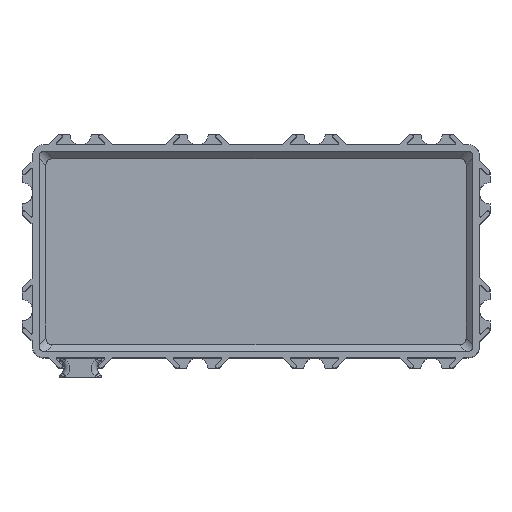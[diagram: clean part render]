
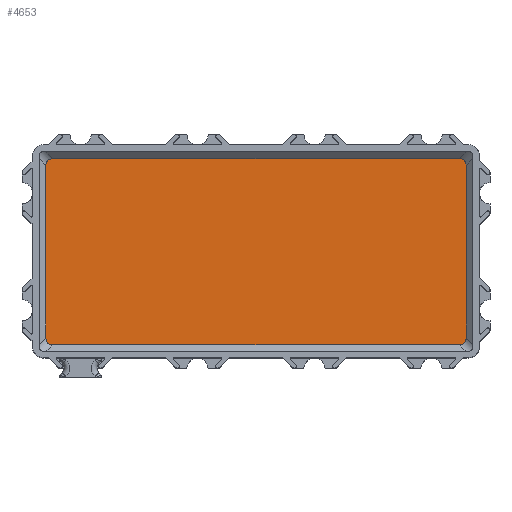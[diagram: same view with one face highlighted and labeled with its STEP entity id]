
A CAD part, top view. The second image highlights one B-rep face of the part: STEP entity #4653.
In plain terms, the highlighted planar face has unit normal (0, 0, 1).
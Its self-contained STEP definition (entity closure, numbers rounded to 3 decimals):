
#376=LINE('',#7682,#788);
#382=LINE('',#7715,#794);
#393=LINE('',#7778,#805);
#395=LINE('',#7781,#807);
#788=VECTOR('',#6307,10.);
#794=VECTOR('',#6327,10.);
#805=VECTOR('',#6364,10.);
#807=VECTOR('',#6368,10.);
#964=PLANE('',#5120);
#1171=FACE_OUTER_BOUND('',#1407,.T.);
#1407=EDGE_LOOP('',(#3906,#3907,#3908,#3909,#3910,#3911,#3912,#3913));
#1506=ELLIPSE('',#5094,3.118,1.8);
#1510=ELLIPSE('',#5102,3.118,1.8);
#1513=ELLIPSE('',#5110,3.118,1.8);
#1515=ELLIPSE('',#5114,3.118,1.8);
#2058=VERTEX_POINT('',#7654);
#2059=VERTEX_POINT('',#7655);
#2064=VERTEX_POINT('',#7681);
#2067=VERTEX_POINT('',#7691);
#2070=VERTEX_POINT('',#7714);
#2074=VERTEX_POINT('',#7741);
#2078=VERTEX_POINT('',#7766);
#2079=VERTEX_POINT('',#7767);
#2668=EDGE_CURVE('',#2058,#2059,#1506,.T.);
#2676=EDGE_CURVE('',#2064,#2058,#376,.T.);
#2681=EDGE_CURVE('',#2067,#2064,#1510,.T.);
#2686=EDGE_CURVE('',#2070,#2067,#382,.T.);
#2693=EDGE_CURVE('',#2074,#2070,#1513,.T.);
#2699=EDGE_CURVE('',#2078,#2079,#1515,.T.);
#2705=EDGE_CURVE('',#2079,#2074,#393,.T.);
#2707=EDGE_CURVE('',#2059,#2078,#395,.T.);
#3906=ORIENTED_EDGE('',*,*,#2668,.T.);
#3907=ORIENTED_EDGE('',*,*,#2707,.T.);
#3908=ORIENTED_EDGE('',*,*,#2699,.T.);
#3909=ORIENTED_EDGE('',*,*,#2705,.T.);
#3910=ORIENTED_EDGE('',*,*,#2693,.T.);
#3911=ORIENTED_EDGE('',*,*,#2686,.T.);
#3912=ORIENTED_EDGE('',*,*,#2681,.T.);
#3913=ORIENTED_EDGE('',*,*,#2676,.T.);
#4653=ADVANCED_FACE('',(#1171),#964,.F.);
#5094=AXIS2_PLACEMENT_3D('',#7656,#6293,#6294);
#5102=AXIS2_PLACEMENT_3D('',#7692,#6317,#6318);
#5110=AXIS2_PLACEMENT_3D('',#7742,#6340,#6341);
#5114=AXIS2_PLACEMENT_3D('',#7768,#6351,#6352);
#5120=AXIS2_PLACEMENT_3D('',#7782,#6369,#6370);
#6293=DIRECTION('center_axis',(0.,0.,1.));
#6294=DIRECTION('ref_axis',(-0.707,0.707,0.));
#6307=DIRECTION('',(-1.,0.,0.));
#6317=DIRECTION('center_axis',(0.,0.,1.));
#6318=DIRECTION('ref_axis',(0.707,0.707,0.));
#6327=DIRECTION('',(0.,1.,0.));
#6340=DIRECTION('center_axis',(0.,0.,1.));
#6341=DIRECTION('ref_axis',(0.707,-0.707,0.));
#6351=DIRECTION('center_axis',(0.,0.,1.));
#6352=DIRECTION('ref_axis',(-0.707,-0.707,0.));
#6364=DIRECTION('',(1.,0.,0.));
#6368=DIRECTION('',(0.,-1.,0.));
#6369=DIRECTION('center_axis',(0.,0.,-1.));
#6370=DIRECTION('ref_axis',(-1.,0.,0.));
#7654=CARTESIAN_POINT('',(5.77,39.503,-60.));
#7655=CARTESIAN_POINT('',(4.497,38.23,-60.));
#7656=CARTESIAN_POINT('Origin',(7.043,36.957,-60.));
#7681=CARTESIAN_POINT('',(82.23,39.503,-60.));
#7682=CARTESIAN_POINT('',(33.5,39.503,-60.));
#7691=CARTESIAN_POINT('',(83.503,38.23,-60.));
#7692=CARTESIAN_POINT('Origin',(80.957,36.957,-60.));
#7714=CARTESIAN_POINT('',(83.503,5.77,-60.));
#7715=CARTESIAN_POINT('',(83.503,27.,-60.));
#7741=CARTESIAN_POINT('',(82.23,4.497,-60.));
#7742=CARTESIAN_POINT('Origin',(80.957,7.043,-60.));
#7766=CARTESIAN_POINT('',(4.497,5.77,-60.));
#7767=CARTESIAN_POINT('',(5.77,4.497,-60.));
#7768=CARTESIAN_POINT('Origin',(7.043,7.043,-60.));
#7778=CARTESIAN_POINT('',(54.5,4.497,-60.));
#7781=CARTESIAN_POINT('',(4.497,17.,-60.));
#7782=CARTESIAN_POINT('Origin',(44.,22.,-60.));
